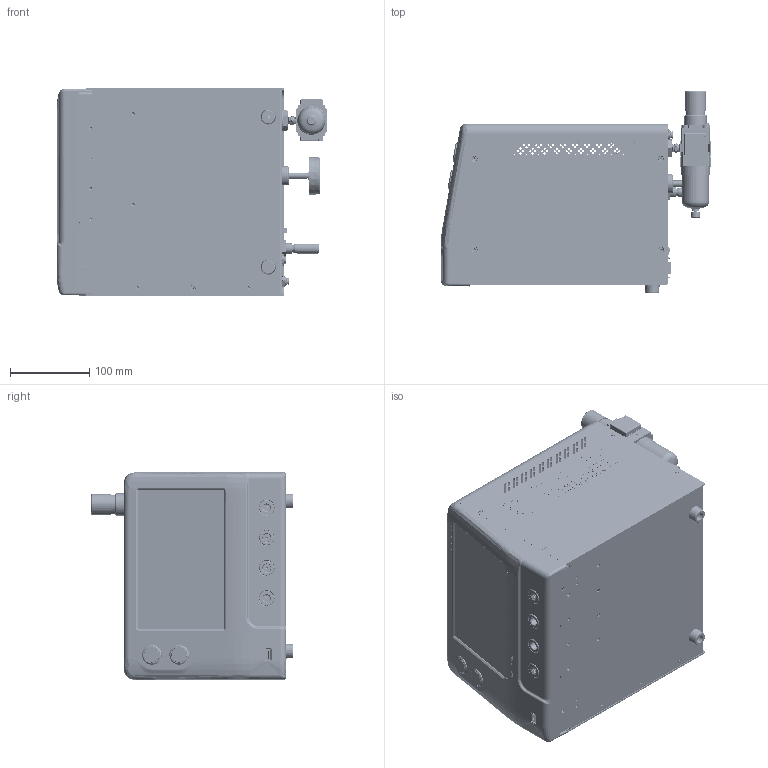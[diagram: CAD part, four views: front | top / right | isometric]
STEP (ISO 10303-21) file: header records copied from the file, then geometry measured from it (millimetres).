
FILE_DESCRIPTION (( 'STEP AP214' ), '1' );
FILE_NAME ('Z8.STEP', '2024-06-26T16:31:15', ( '' ), ( '' ), 'SwSTEP 2.0', 'SolidWorks 2023', '' );
FILE_SCHEMA (( 'AUTOMOTIVE_DESIGN' ));
Length unit declared in the file: inch
Products named in the file (185): 201724; Open_CASCADE_STEP_translator_6.8_11.25.1.1; 100852; CAD23Single_AD_Rev_C; Mdl10_Knob; J1; 301226; SW3DPS-CAPACITOR_0603-DEFAULT; DAC4; J9; RAD30Single_AD_Rev_C; 201803; X18; Free-Models; 103374_95185A150; 200162_PD; C419; X11; RAD21Single_AD_Rev_C; CAD35Single_AD_Rev_C; 14601819376; 430450218; RAD27Single_AD_Rev_C; Open_CASCADE_STEP_translator_6.8_5.1.1; 201726; IC3; R426; J11; CAD25Single_AD_Rev_C; 300533 Update 240315; U14; 201727; 430450412_2; CAD32Single_AD_Rev_C; R485; C547; RAD28Single_AD_Rev_C; 10-32x75Fillister; L829-1J1T-43; J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
Assembly tree (278 placements, depth 7):
  Z8
    201728_Std Reg Cutout Rev C
    201726
      201727
      105142_93090A732  x4
      103374_95185A150  x2
    300965
      Board
        Open CASCADE STEP translator 6.8 10.1.1
      J20
        10118241-001RLF--3DModel-STEP-554624
      J
        GSB311131HR--3DModel-STEP-56544
      BT1
        Keystone-3002
      X20
        TSW-120-07-G-D_2_14
          _TSW-120-07-G-D_body
          _T-1S6-07-TSW-1--07-20-D
      X19
        Samtec-TSW-110-07-G-D
      C336
        6464716000
      J4
        430450412
          Open CASCADE STEP translator 6.8 10.8.1.1
      J12
        430450812
          Open CASCADE STEP translator 6.8 10.9.1.1
      J11
        430450812
          Open CASCADE STEP translator 6.8 10.9.1.1
      J6
        430450412
          Open CASCADE STEP translator 6.8 10.8.1.1
      J10
        430450812
          Open CASCADE STEP translator 6.8 10.9.1.1
      J9
        430450812
          Open CASCADE STEP translator 6.8 10.9.1.1
      C247
        CAP_EEE_F-L
      X1
        c-2309409-2-1-3d
      L14
        User_Library-SRP_1038A
      C69
        6464712240
      X18
        12401598E4#2A--3DModel-STEP-56544
      X14
        SJ-43516-SMT
      X11
        L829-1J1T-43
      X9
        430450218
          Open CASCADE STEP translator 6.8 10.21.1.1
      X3
        12401598E4#2A--3DModel-STEP-56544
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Bounding box: 341.41 x 254.77 x 261.59 mm (x, y, z)
Volume: 1606932.4 mm3; surface area: 1232560.6 mm2
Topology: 588 solids, 672 shells, 37572 faces, 99574 edges, 64520 vertices
Faces by surface type: plane 26017, cylinder 6405, bspline 3889, cone 832, torus 283, sphere 146
Full cylindrical faces by diameter (mm): 0.13 x1, 0.155 x1, 0.16 x1, 0.4 x2, 0.406 x1, 0.457 x12, 0.55 x4, 0.6 x20, 0.71 x6, 0.712 x18, 0.8 x2, 0.813 x12, 0.86 x36, 0.889 x2, 0.89 x6, 0.9 x1, 0.965 x2, 1 x72, 1.219 x2, 1.397 x2, 1.5 x4, 1.524 x2, 1.587 x16, 2.312 x4, 2.362 x2, 2.381 x7, 2.438 x1, 2.705 x18, 3 x2, 3.15 x2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
Entity records: 1024897 total; most frequent: CARTESIAN_POINT 327423, ORIENTED_EDGE 150150, DIRECTION 128501, EDGE_CURVE 75203, LINE 55441, VECTOR 55441, VERTEX_POINT 49070, AXIS2_PLACEMENT_3D 36530
